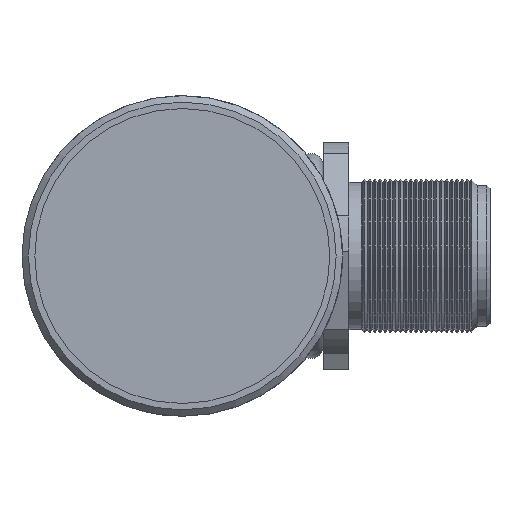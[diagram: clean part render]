
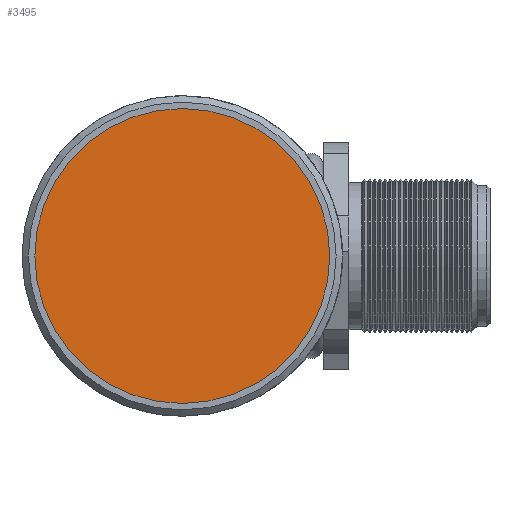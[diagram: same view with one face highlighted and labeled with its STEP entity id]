
A CAD part, left-side view. The second image highlights one B-rep face of the part: STEP entity #3495.
In plain terms, the highlighted planar face has unit normal (-1, 0, 0).
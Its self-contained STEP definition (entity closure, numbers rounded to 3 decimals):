
#696=PLANE('',#3775);
#842=VERTEX_POINT('',#4161);
#1158=CIRCLE('',#3774,11.5);
#1330=EDGE_CURVE('',#842,#842,#1158,.T.);
#1810=ORIENTED_EDGE('',*,*,#1330,.T.);
#2742=EDGE_LOOP('',(#1810));
#3125=FACE_BOUND('',#2742,.T.);
#3495=ADVANCED_FACE('',(#3125),#696,.F.);
#3774=AXIS2_PLACEMENT_3D('',#4160,#6520,#6521);
#3775=AXIS2_PLACEMENT_3D('',#4162,#6522,$);
#4160=CARTESIAN_POINT('',(-34.,0.,0.));
#4161=CARTESIAN_POINT('',(-34.,0.,-11.5));
#4162=CARTESIAN_POINT('',(-34.,0.,0.));
#6520=DIRECTION('',(-1.,0.,0.));
#6521=DIRECTION('',(0.,0.,-11.5));
#6522=DIRECTION('',(1.,0.,0.));
